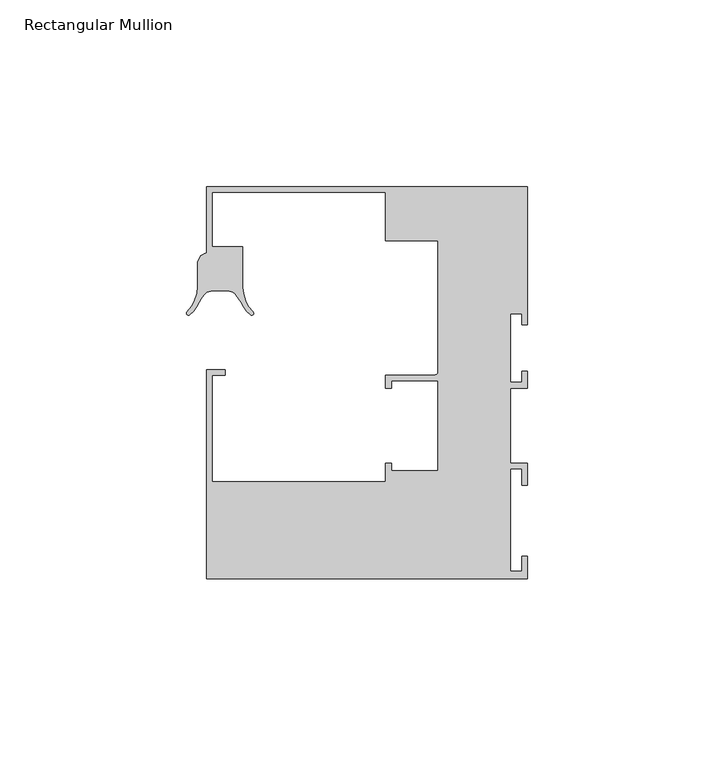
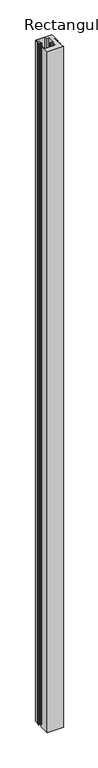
"""IFC4 building model written with IfcOpenShell, lengths in millimetres: member geometry, Rectangular Mullion : Danpal_Airpt_End-Mullion_B1."""

from ifc_helpers import new_model, si_unit, point, frame, frame_2d, origin, place, context, project, spatial, polyline, circle_curve, trimmed, segment, composite_curve, outline, extrude, source, transform, mapped, element, save


def rectangular_mullion_15cd0707(model_context):
    return source(origin(), model_context, "Body", "SweptSolid", [
        extrude(outline(composite_curve([segment(polyline([(-84.5, -44.249979), (-38.0, -44.249979), (-38.0, -39.2500001), (-36.4, -39.2500001), (-36.4, -41.2500001), (-23.9180899, -41.2500001), (-23.9180899, -17.2500031), (-36.4180899, -17.2500031), (-36.4180899, -19.2500031), (-38.0180899, -19.2500031), (-38.0180899, -15.7500031), (-24.969716, -15.7500031)]), True, "CONTINUOUS"), segment(trimmed(circle_curve(frame_2d((-24.969716, -14.698377)), 1.0516261), [point((-24.969716, -15.7500031))], [point((-23.9180899, -14.698377))], True, "CARTESIAN"), True, "CONTINUOUS"), segment(polyline([(-23.9180899, -14.698377), (-23.9180899, 20.2499969), (-38.0180899, 20.2499969), (-38.0180899, 33.2499969), (-84.5180945, 33.2499969), (-84.5180945, 18.6499969), (-76.3180945, 18.6499969), (-76.3180945, 7.8643287)]), True, "CONTINUOUS"), segment(trimmed(circle_curve(frame_2d((-66.322244, 8.1523787)), 10.0), [point((-76.3180945, 7.8643287))], [point((-73.5120728, 1.2021009))], True, "CARTESIAN"), True, "CONTINUOUS"), segment(trimmed(circle_curve(frame_2d((-73.8718016, 0.8543575)), 0.5003301), [point((-73.5120728, 1.2021009))], [point((-74.1944462, 0.4719563))], False, "CARTESIAN"), True, "CONTINUOUS"), segment(trimmed(circle_curve(frame_2d((-67.7458114, 8.1149337)), 9.9999997), [point((-74.1944462, 0.4719563))], [point((-76.759944, 3.7853369))], False, "CARTESIAN"), True, "CONTINUOUS"), segment(trimmed(circle_curve(frame_2d((-85.7740768, -0.5442599)), 10.0), [point((-76.759944, 3.7853369))], [point((-77.9898528, 5.7331484))], True, "CARTESIAN"), True, "CONTINUOUS"), segment(trimmed(circle_curve(frame_2d((-80.32512, 3.8499259)), 3.0), [point((-77.9898528, 5.7331484))], [point((-80.32512, 6.8499259))], True, "CARTESIAN"), True, "CONTINUOUS"), segment(polyline([(-80.32512, 6.8499259), (-84.363764, 6.8499259)]), True, "CONTINUOUS"), segment(trimmed(circle_curve(frame_2d((-84.363764, 3.8499259)), 3.0), [point((-84.363764, 6.8499259))], [point((-86.6990305, 5.7331494))], True, "CARTESIAN"), True, "CONTINUOUS"), segment(trimmed(circle_curve(frame_2d((-78.9148092, -0.544262)), 9.9999997), [point((-86.6990305, 5.7331494))], [point((-87.9289412, 3.785336))], True, "CARTESIAN"), True, "CONTINUOUS"), segment(trimmed(circle_curve(frame_2d((-96.9430732, 8.114934)), 9.9999998), [point((-87.9289412, 3.785336))], [point((-90.4970116, 0.4697862))], False, "CARTESIAN"), True, "CONTINUOUS"), segment(trimmed(circle_curve(frame_2d((-90.8194227, 0.8521716)), 0.5001675), [point((-90.4970116, 0.4697862))], [point((-91.1789286, 1.1999114))], False, "CARTESIAN"), True, "CONTINUOUS"), segment(trimmed(circle_curve(frame_2d((-98.3666403, 8.1523787)), 10.0), [point((-91.1789286, 1.1999114))], [point((-88.3666989, 8.1181379))], True, "CARTESIAN"), True, "CONTINUOUS"), segment(polyline([(-88.3666989, 8.1181379), (-88.3666989, 14.1183419)]), True, "CONTINUOUS"), segment(trimmed(circle_curve(frame_2d((-85.366716, 14.1081309)), 3.0000002), [point((-88.3666989, 14.1183419))], [point((-86.0180914, 17.0365625))], False, "CARTESIAN"), True, "CONTINUOUS"), segment(polyline([(-86.0180914, 17.0365625), (-86.0180914, 34.75), (-0.0180922, 34.75), (-0.0180922, -2.25), (-1.5180922, -2.25), (-1.5180922, 0.75), (-4.5180922, 0.75), (-4.5180922, -17.65), (-1.5180922, -17.65), (-1.5180922, -14.65), (-0.0180922, -14.65), (-0.0180922, -19.25), (-4.5, -19.25), (-4.5, -39.2500001), (-0.0180937, -39.2500001), (-0.0180937, -45.2500001), (-1.5180937, -45.2500001), (-1.5180937, -40.7500001), (-4.5, -40.7500001), (-4.5, -68.2500001), (-1.5, -68.2500001), (-1.5, -64.2500001), (0.0, -64.2500001), (0.0, -70.2500001), (-86.0, -70.2500001), (-86.0, -14.2500001), (-81.0, -14.2500001), (-81.0, -15.7500001), (-84.5, -15.7500001), (-84.5, -44.249979)]), True, "CONTINUOUS")], self_intersect=False)), frame((0.0, 0.0, -3817.3608197), z_axis=(0.0, 0.0, 1.0), x_axis=(1.0, 0.0, 0.0)), (0.0, 0.0, 1.0), 3817.3608197),
    ])


if __name__ == "__main__":
    model = new_model("IFC4")
    model_context = context("Model", 3, world=origin())
    ifc_project = project(units=[si_unit("LENGTHUNIT", "METRE", prefix="MILLI")], contexts=[model_context])
    site = spatial("IfcSite", under=ifc_project)
    building = spatial("IfcBuilding", under=site)
    placement = place(None, origin())
    rectangular_mullion_shape = rectangular_mullion_15cd0707(model_context)
    element("IfcMember", 1, ObjectType="Rectangular Mullion : Danpal_Airpt_End-Mullion_B1", at=placement, inside=building, context=model_context, shape_type="MappedRepresentation", body=[
        mapped(rectangular_mullion_shape, transform((0.0, 0.0, 0.0), x_axis=(1.0, 0.0, 0.0), y_axis=(0.0, 1.0, 0.0), z_axis=(0.0, 0.0, 1.0))),
    ])
    save(model, "model.ifc")
